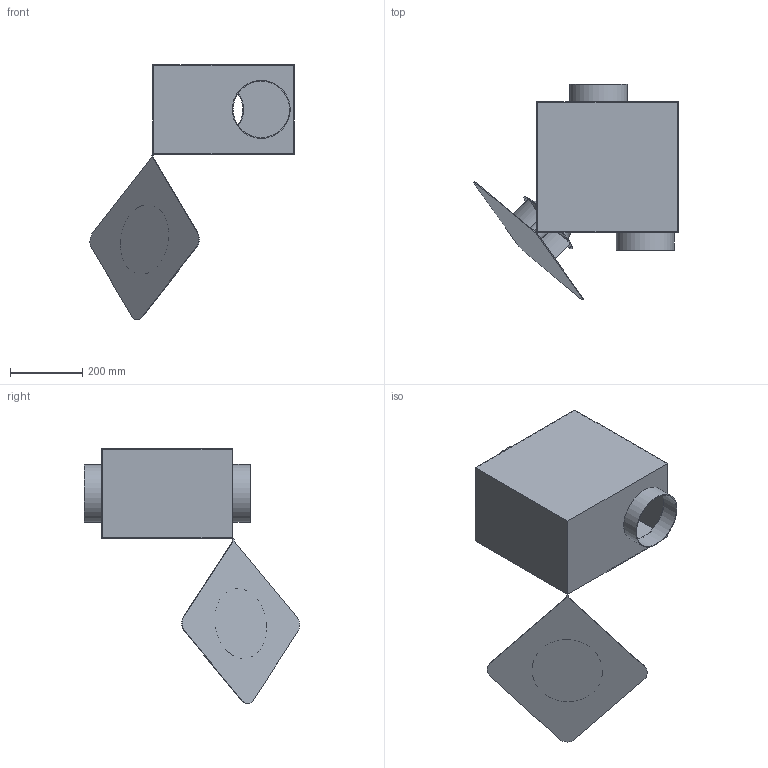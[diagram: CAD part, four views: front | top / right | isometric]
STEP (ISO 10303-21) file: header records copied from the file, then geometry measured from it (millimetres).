
FILE_DESCRIPTION(/* description */ (''),/* implementation_level */ '2;1');
FILE_NAME(/* name */ 'Z:\Output\SVS EC 160 A-00017-001.stp',/* time_stamp */ '2017-05-05T17:23:34+02:00',/* author */ ('engineering1'),/* organization */ (''),/* preprocessor_version */ 'ST-DEVELOPER v16.5',/* originating_system */ 'Autodesk Inventor 2017',/* authorisation */ '');
FILE_SCHEMA (('AUTOMOTIVE_DESIGN { 1 0 10303 214 3 1 1 }'));
Length unit declared in the file: millimetre
Products named in the file (1): SVR-1
Bounding box: 564.35 x 594.24 x 704.24 mm (x, y, z)
Volume: 1559144.8 mm3; surface area: 1530598.2 mm2
Topology: 2 solids, 2 shells, 118 faces, 298 edges, 177 vertices
Faces by surface type: plane 60, cylinder 37, cone 19, torus 2
Full cylindrical faces by diameter (mm): 156 x2, 160 x2, 195 x2
Entity records: 3679 total; most frequent: CARTESIAN_POINT 801, DIRECTION 635, ORIENTED_EDGE 572, EDGE_CURVE 286, AXIS2_PLACEMENT_3D 254, VERTEX_POINT 174, EDGE_LOOP 137, CIRCLE 135
